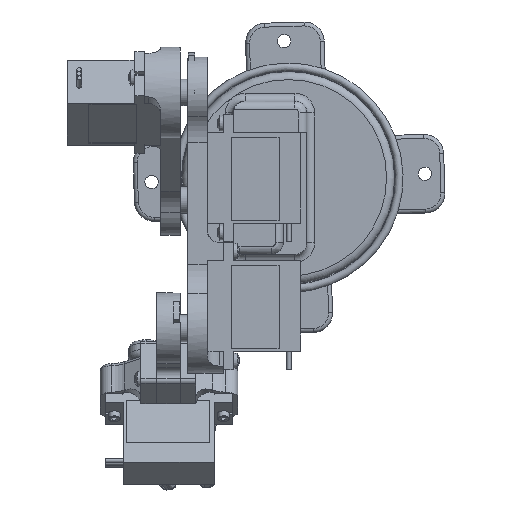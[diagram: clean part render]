
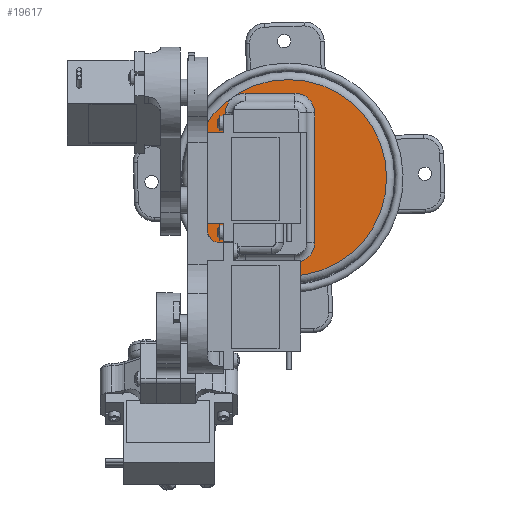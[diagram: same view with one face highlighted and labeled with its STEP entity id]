
A CAD part, left-side view. The second image highlights one B-rep face of the part: STEP entity #19617.
In plain terms, the highlighted planar face has unit normal (-1, 0, 0) as drawn and (0, -1, 0) by its records, which use the part's own axes.
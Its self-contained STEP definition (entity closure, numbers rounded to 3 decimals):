
#4231=FACE_BOUND('',#8814,.T.);
#4342=PLANE('',#20788);
#4838=LINE('',#29242,#6242);
#4839=LINE('',#29246,#6243);
#4840=LINE('',#29250,#6244);
#4841=LINE('',#29253,#6245);
#6242=VECTOR('',#23211,10.);
#6243=VECTOR('',#23214,10.);
#6244=VECTOR('',#23217,10.);
#6245=VECTOR('',#23220,10.);
#7921=FACE_OUTER_BOUND('',#8813,.T.);
#8813=EDGE_LOOP('',(#14974));
#8814=EDGE_LOOP('',(#14975,#14976,#14977,#14978,#14979,#14980,#14981,#14982));
#9794=CIRCLE('',#20787,25.);
#9795=CIRCLE('',#20789,5.);
#9796=CIRCLE('',#20790,5.);
#9797=CIRCLE('',#20791,5.);
#9798=CIRCLE('',#20792,5.);
#11008=VERTEX_POINT('',#29234);
#11009=VERTEX_POINT('',#29238);
#11010=VERTEX_POINT('',#29239);
#11011=VERTEX_POINT('',#29241);
#11012=VERTEX_POINT('',#29243);
#11013=VERTEX_POINT('',#29245);
#11014=VERTEX_POINT('',#29247);
#11015=VERTEX_POINT('',#29249);
#11016=VERTEX_POINT('',#29251);
#12555=EDGE_CURVE('',#11008,#11008,#9794,.T.);
#12556=EDGE_CURVE('',#11009,#11010,#9795,.T.);
#12557=EDGE_CURVE('',#11011,#11009,#4838,.T.);
#12558=EDGE_CURVE('',#11012,#11011,#9796,.T.);
#12559=EDGE_CURVE('',#11013,#11012,#4839,.T.);
#12560=EDGE_CURVE('',#11014,#11013,#9797,.T.);
#12561=EDGE_CURVE('',#11015,#11014,#4840,.T.);
#12562=EDGE_CURVE('',#11016,#11015,#9798,.T.);
#12563=EDGE_CURVE('',#11010,#11016,#4841,.T.);
#14974=ORIENTED_EDGE('',*,*,#12555,.F.);
#14975=ORIENTED_EDGE('',*,*,#12556,.F.);
#14976=ORIENTED_EDGE('',*,*,#12557,.F.);
#14977=ORIENTED_EDGE('',*,*,#12558,.F.);
#14978=ORIENTED_EDGE('',*,*,#12559,.F.);
#14979=ORIENTED_EDGE('',*,*,#12560,.F.);
#14980=ORIENTED_EDGE('',*,*,#12561,.F.);
#14981=ORIENTED_EDGE('',*,*,#12562,.F.);
#14982=ORIENTED_EDGE('',*,*,#12563,.F.);
#19617=ADVANCED_FACE('',(#7921,#4231),#4342,.F.);
#20787=AXIS2_PLACEMENT_3D('',#29236,#23205,#23206);
#20788=AXIS2_PLACEMENT_3D('',#29237,#23207,#23208);
#20789=AXIS2_PLACEMENT_3D('',#29240,#23209,#23210);
#20790=AXIS2_PLACEMENT_3D('',#29244,#23212,#23213);
#20791=AXIS2_PLACEMENT_3D('',#29248,#23215,#23216);
#20792=AXIS2_PLACEMENT_3D('',#29252,#23218,#23219);
#23205=DIRECTION('center_axis',(0.,1.,0.));
#23206=DIRECTION('ref_axis',(-1.,0.,0.));
#23207=DIRECTION('center_axis',(0.,1.,0.));
#23208=DIRECTION('ref_axis',(0.,0.,1.));
#23209=DIRECTION('center_axis',(0.,-1.,0.));
#23210=DIRECTION('ref_axis',(0.707,0.,0.707));
#23211=DIRECTION('',(0.,0.,1.));
#23212=DIRECTION('center_axis',(0.,-1.,0.));
#23213=DIRECTION('ref_axis',(0.707,0.,-0.707));
#23214=DIRECTION('',(1.,0.,0.));
#23215=DIRECTION('center_axis',(0.,-1.,0.));
#23216=DIRECTION('ref_axis',(-0.707,0.,-0.707));
#23217=DIRECTION('',(0.,0.,-1.));
#23218=DIRECTION('center_axis',(0.,-1.,0.));
#23219=DIRECTION('ref_axis',(-0.707,0.,0.707));
#23220=DIRECTION('',(-1.,0.,0.));
#29234=CARTESIAN_POINT('',(0.,9.25,-11.));
#29236=CARTESIAN_POINT('Origin',(0.,9.25,14.));
#29237=CARTESIAN_POINT('Origin',(0.,9.25,14.));
#29238=CARTESIAN_POINT('',(21.5,9.25,15.7));
#29239=CARTESIAN_POINT('',(16.5,9.25,20.7));
#29240=CARTESIAN_POINT('Origin',(16.5,9.25,15.7));
#29241=CARTESIAN_POINT('',(21.5,9.25,3.));
#29242=CARTESIAN_POINT('',(21.5,9.25,7.));
#29243=CARTESIAN_POINT('',(16.5,9.25,-2.));
#29244=CARTESIAN_POINT('Origin',(16.5,9.25,3.));
#29245=CARTESIAN_POINT('',(-16.5,9.25,-2.));
#29246=CARTESIAN_POINT('',(-7.75,9.25,-2.));
#29247=CARTESIAN_POINT('',(-21.5,9.25,3.));
#29248=CARTESIAN_POINT('Origin',(-16.5,9.25,3.));
#29249=CARTESIAN_POINT('',(-21.5,9.25,15.7));
#29250=CARTESIAN_POINT('',(-21.5,9.25,7.));
#29251=CARTESIAN_POINT('',(-16.5,9.25,20.7));
#29252=CARTESIAN_POINT('Origin',(-16.5,9.25,15.7));
#29253=CARTESIAN_POINT('',(0.,9.25,20.7));
